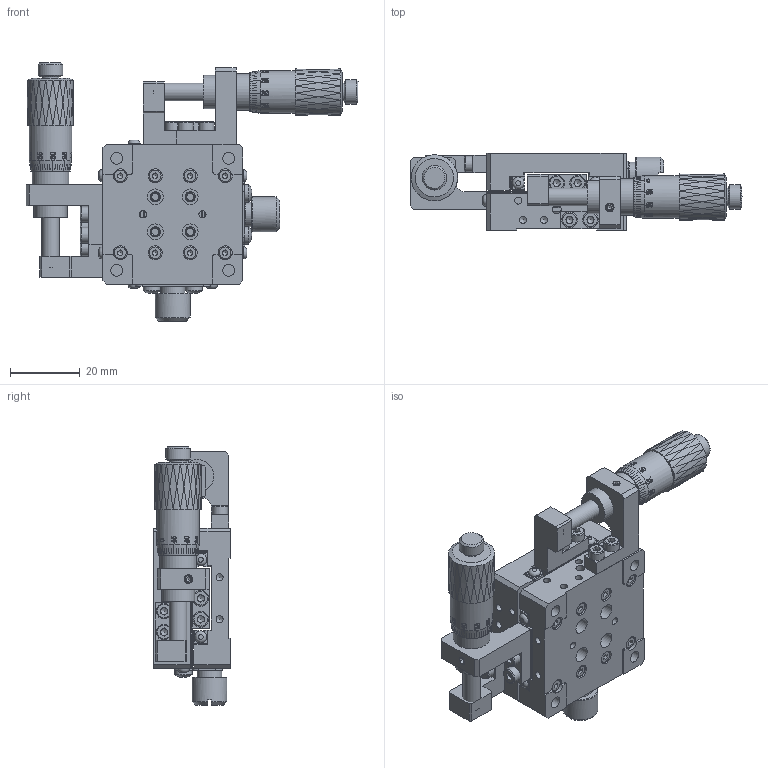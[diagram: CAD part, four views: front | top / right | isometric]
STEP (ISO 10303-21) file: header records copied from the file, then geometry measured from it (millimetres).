
FILE_DESCRIPTION (( 'STEP AP203' ), '1' );
FILE_NAME ('BPBB40.STEP', '2024-07-25T12:48:15', ( 'Windows User' ), ( 'P R C' ), 'SwSTEP 2.0', 'SolidWorks 2024', '' );
FILE_SCHEMA (( 'CONFIG_CONTROL_DESIGN' ));
Length unit declared in the file: millimetre
Products named in the file (1): BPBB40
Bounding box: 95.02 x 22 x 73.97 mm (x, y, z)
Volume: 42810 mm3; surface area: 38536.8 mm2
Topology: 50 solids, 50 shells, 2699 faces, 6539 edges, 4198 vertices
Faces by surface type: plane 1043, bspline 790, cylinder 520, cone 308, torus 32, sphere 6
Full cylindrical faces by diameter (mm): 1.2 x2, 2 x32, 2.05 x38, 2.4 x16, 2.5 x25, 2.6 x4, 2.8 x4, 2.9 x24, 2.95 x18, 3.4 x12, 3.8 x16, 4 x16, 4.5 x16, 5 x11, 7 x4, 8.5 x2, 9.5 x4, 10 x2, 10.5 x2, 12.2 x2
Entity records: 139248 total; most frequent: CARTESIAN_POINT 85822, ORIENTED_EDGE 12032, DIRECTION 7988, EDGE_CURVE 6016, VERTEX_POINT 4070, EDGE_LOOP 3504, AXIS2_PLACEMENT_3D 3033, FACE_OUTER_BOUND 2950
